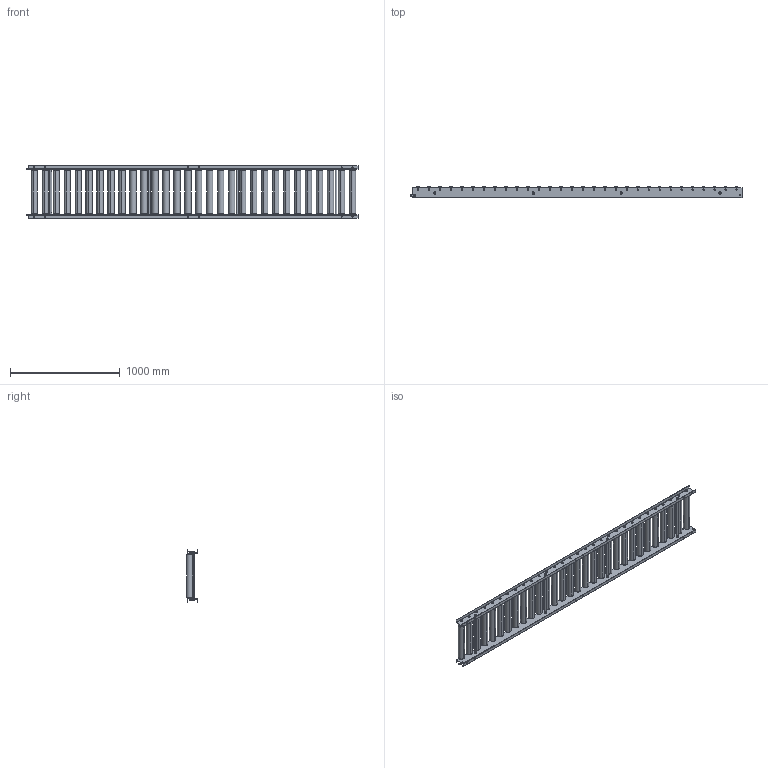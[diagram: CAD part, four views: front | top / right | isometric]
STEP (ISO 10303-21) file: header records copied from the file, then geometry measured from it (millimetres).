
FILE_DESCRIPTION (( 'STEP AP203' ), '1' );
FILE_NAME ('RS-5715.step', '2024-02-26T06:39:46', ( '' ), ( '' ), 'SwSTEP 2.0', 'SolidWorks 2023', '' );
FILE_SCHEMA (( 'CONFIG_CONTROL_DESIGN' ));
Length unit declared in the file: millimetre
Products named in the file (1): RS-5715
Bounding box: 3025 x 99.91 x 475 mm (x, y, z)
Volume: 32710593 mm3; surface area: 5182522.2 mm2
Topology: 84 solids, 84 shells, 1160 faces, 2572 edges, 1648 vertices
Faces by surface type: cylinder 562, plane 430, torus 120, cone 48
Entity records: 33311 total; most frequent: DIRECTION 6238, CARTESIAN_POINT 6053, ORIENTED_EDGE 5144, AXIS2_PLACEMENT_3D 2633, EDGE_CURVE 2572, VERTEX_POINT 1648, EDGE_LOOP 1472, CIRCLE 1472
